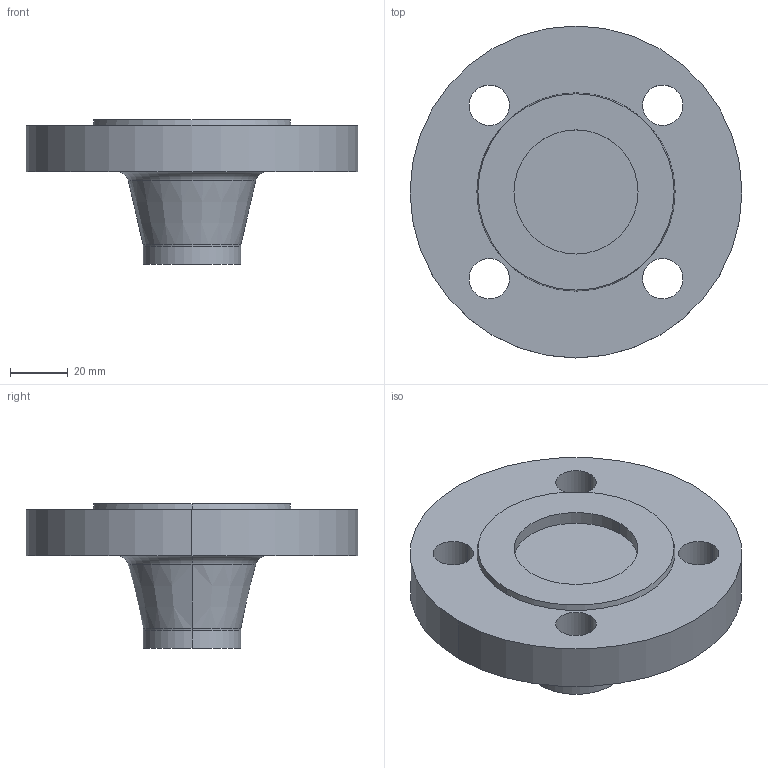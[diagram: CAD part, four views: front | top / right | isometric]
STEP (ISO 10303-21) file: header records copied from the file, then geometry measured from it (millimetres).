
FILE_DESCRIPTION (( 'STEP AP214' ), '1' );
FILE_NAME ('PN40 DN25 Type 21(ii) - Type G Face.STEP', '2018-12-29T20:12:44', ( '' ), ( '' ), 'SwSTEP 2.0', 'SolidWorks 2019', '' );
FILE_SCHEMA (( 'AUTOMOTIVE_DESIGN' ));
Length unit declared in the file: millimetre
Products named in the file (1): PN40 DN25 Type 21(ii) - Type G Face
Bounding box: 115 x 115 x 50 mm (x, y, z)
Volume: 195011.5 mm3; surface area: 32178.2 mm2
Topology: 1 solids, 1 shells, 27 faces, 60 edges, 38 vertices
Faces by surface type: cylinder 14, plane 5, torus 4, cone 4
Entity records: 818 total; most frequent: DIRECTION 158, CARTESIAN_POINT 126, ORIENTED_EDGE 120, AXIS2_PLACEMENT_3D 70, EDGE_CURVE 60, CIRCLE 42, EDGE_LOOP 38, VERTEX_POINT 38
